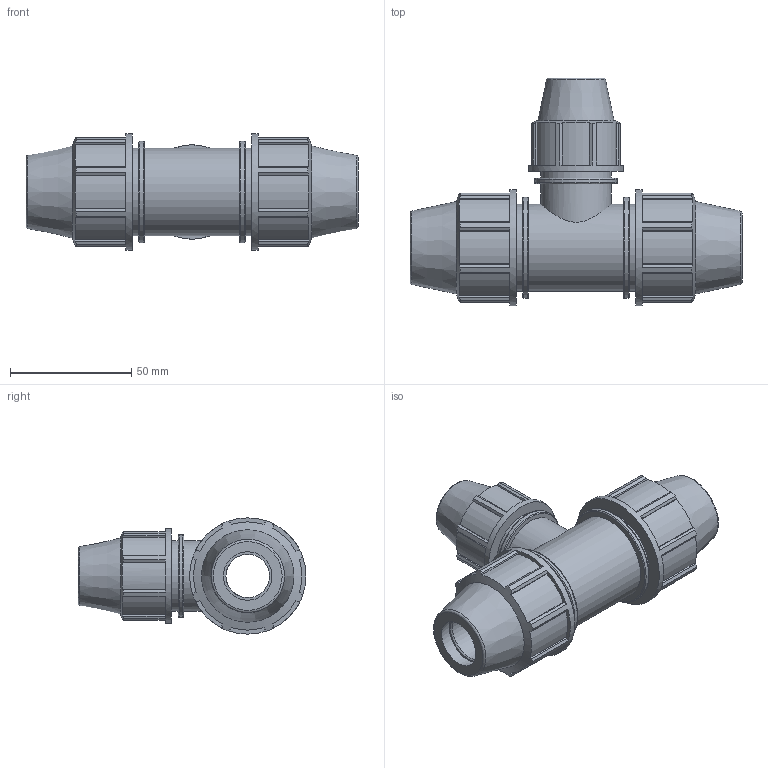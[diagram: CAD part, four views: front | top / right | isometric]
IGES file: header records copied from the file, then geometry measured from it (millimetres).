
Global section: file name: 073400020016_183400020016_0734060200160A.ipt; native system: Autodesk Inventor 2015; preprocessor: unknown; author: Кирилл,,11,0; organization: 20170224.180708; date: 20170606.172352; units: millimetre
Bounding box: 137 x 94 x 48 mm (x, y, z)
Volume: 156440.4 mm3; surface area: 40766.7 mm2
Topology: 1 solids, 1 shells, 199 faces, 566 edges, 383 vertices
Faces by surface type: plane 138, cylinder 35, revolution 20, cone 6
Full cylindrical faces by diameter (mm): 29.25 x2, 33.93 x1, 36 x3, 39 x1, 41.76 x2, 48 x2
